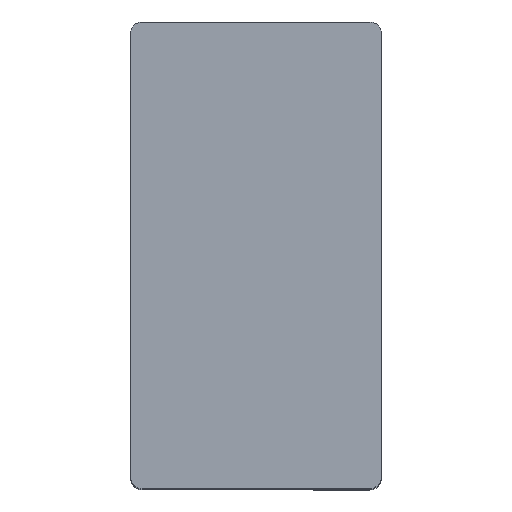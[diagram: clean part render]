
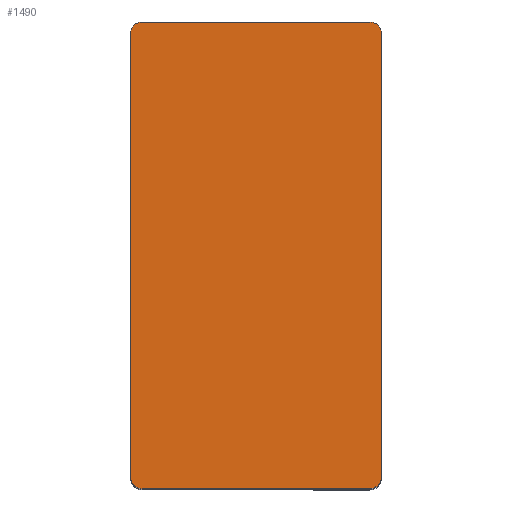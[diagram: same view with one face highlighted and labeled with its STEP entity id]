
A CAD part, top view. The second image highlights one B-rep face of the part: STEP entity #1490.
In plain terms, the highlighted planar face has unit normal (0, 0, 1).
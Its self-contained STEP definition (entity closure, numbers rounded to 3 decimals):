
#12=DIRECTION('',(1.0,0.0,0.0));
#1418=DIRECTION('',(0.0,0.0,1.));
#1419=CARTESIAN_POINT('',(0.0,0.,64.4));
#1420=AXIS2_PLACEMENT_3D('',#1419,#1418,#12);
#1421=PLANE('',#1420);
#1422=VECTOR('',#12,20.0);
#1423=CARTESIAN_POINT('',(1.0,41.0,64.4));
#1424=LINE('',#1423,#1422);
#1425=CARTESIAN_POINT('',(21.0,41.0,64.4));
#1426=VERTEX_POINT('',#1425);
#1427=VERTEX_POINT('',#1423);
#1428=EDGE_CURVE('',#1427,#1426,#1424,.T.);
#1429=ORIENTED_EDGE('',*,*,#1428,.F.);
#1430=CARTESIAN_POINT('',(22.,40.0,64.4));
#1431=CARTESIAN_POINT('',(22.,40.191,64.4));
#1432=CARTESIAN_POINT('',(21.854,40.561,64.4));
#1433=CARTESIAN_POINT('',(21.561,40.854,64.4));
#1434=CARTESIAN_POINT('',(21.191,41.0,64.4));
#1435=(BOUNDED_CURVE()B_SPLINE_CURVE(2,(#1425,#1434,#1433,#1432,#1431,#1430),.UNSPECIFIED.,.U.,.U.)B_SPLINE_CURVE_WITH_KNOTS((3,1,1,1,3),(0.0,0.25,0.5,0.75,1.0),.UNSPECIFIED.)CURVE()GEOMETRIC_REPRESENTATION_ITEM()RATIONAL_B_SPLINE_CURVE((1.0,0.927,0.854,0.854,0.927,1.0))REPRESENTATION_ITEM(''));
#1436=VERTEX_POINT('',#1430);
#1437=EDGE_CURVE('',#1426,#1436,#1435,.T.);
#1438=ORIENTED_EDGE('',*,*,#1437,.F.);
#1439=DIRECTION('',(0.,-1.0,0.0));
#1440=VECTOR('',#1439,39.);
#1441=LINE('',#1430,#1440);
#1442=CARTESIAN_POINT('',(22.0,1.,64.4));
#1443=VERTEX_POINT('',#1442);
#1444=EDGE_CURVE('',#1436,#1443,#1441,.T.);
#1445=ORIENTED_EDGE('',*,*,#1444,.F.);
#1446=CARTESIAN_POINT('',(21.,0.,64.4));
#1447=CARTESIAN_POINT('',(21.191,0.,64.4));
#1448=CARTESIAN_POINT('',(21.561,0.146,64.4));
#1449=CARTESIAN_POINT('',(21.854,0.439,64.4));
#1450=CARTESIAN_POINT('',(22.,0.809,64.4));
#1451=(BOUNDED_CURVE()B_SPLINE_CURVE(2,(#1442,#1450,#1449,#1448,#1447,#1446),.UNSPECIFIED.,.U.,.U.)B_SPLINE_CURVE_WITH_KNOTS((3,1,1,1,3),(0.0,0.25,0.5,0.75,1.0),.UNSPECIFIED.)CURVE()GEOMETRIC_REPRESENTATION_ITEM()RATIONAL_B_SPLINE_CURVE((1.0,0.927,0.854,0.854,0.927,1.0))REPRESENTATION_ITEM(''));
#1452=CARTESIAN_POINT('',(21.0,0.,64.4));
#1453=VERTEX_POINT('',#1452);
#1454=EDGE_CURVE('',#1443,#1453,#1451,.T.);
#1455=ORIENTED_EDGE('',*,*,#1454,.F.);
#1456=DIRECTION('',(-1.0,0.,0.0));
#1457=VECTOR('',#1456,20.);
#1458=LINE('',#1452,#1457);
#1459=CARTESIAN_POINT('',(1.,0.,64.4));
#1460=VERTEX_POINT('',#1459);
#1461=EDGE_CURVE('',#1453,#1460,#1458,.T.);
#1462=ORIENTED_EDGE('',*,*,#1461,.F.);
#1463=CARTESIAN_POINT('',(0.,1.0,64.4));
#1464=CARTESIAN_POINT('',(0.,0.809,64.4));
#1465=CARTESIAN_POINT('',(0.146,0.439,64.4));
#1466=CARTESIAN_POINT('',(0.439,0.146,64.4));
#1467=CARTESIAN_POINT('',(0.809,0.,64.4));
#1468=(BOUNDED_CURVE()B_SPLINE_CURVE(2,(#1459,#1467,#1466,#1465,#1464,#1463),.UNSPECIFIED.,.U.,.U.)B_SPLINE_CURVE_WITH_KNOTS((3,1,1,1,3),(0.0,0.25,0.5,0.75,1.0),.UNSPECIFIED.)CURVE()GEOMETRIC_REPRESENTATION_ITEM()RATIONAL_B_SPLINE_CURVE((1.0,0.927,0.854,0.854,0.927,1.0))REPRESENTATION_ITEM(''));
#1469=CARTESIAN_POINT('',(0.,1.0,64.4));
#1470=VERTEX_POINT('',#1469);
#1471=EDGE_CURVE('',#1460,#1470,#1468,.T.);
#1472=ORIENTED_EDGE('',*,*,#1471,.F.);
#1473=DIRECTION('',(0.,1.0,0.0));
#1474=VECTOR('',#1473,39.0);
#1475=LINE('',#1469,#1474);
#1476=CARTESIAN_POINT('',(0.,40.0,64.4));
#1477=VERTEX_POINT('',#1476);
#1478=EDGE_CURVE('',#1470,#1477,#1475,.T.);
#1479=ORIENTED_EDGE('',*,*,#1478,.F.);
#1480=CARTESIAN_POINT('',(1.,41.0,64.4));
#1481=CARTESIAN_POINT('',(0.809,41.0,64.4));
#1482=CARTESIAN_POINT('',(0.439,40.854,64.4));
#1483=CARTESIAN_POINT('',(0.146,40.561,64.4));
#1484=CARTESIAN_POINT('',(0.0,40.191,64.4));
#1485=(BOUNDED_CURVE()B_SPLINE_CURVE(2,(#1476,#1484,#1483,#1482,#1481,#1480),.UNSPECIFIED.,.U.,.U.)B_SPLINE_CURVE_WITH_KNOTS((3,1,1,1,3),(0.0,0.25,0.5,0.75,1.0),.UNSPECIFIED.)CURVE()GEOMETRIC_REPRESENTATION_ITEM()RATIONAL_B_SPLINE_CURVE((1.0,0.927,0.854,0.854,0.927,1.0))REPRESENTATION_ITEM(''));
#1486=EDGE_CURVE('',#1477,#1427,#1485,.T.);
#1487=ORIENTED_EDGE('',*,*,#1486,.F.);
#1488=EDGE_LOOP('',(#1487,#1479,#1472,#1462,#1455,#1445,#1438,#1429));
#1489=FACE_BOUND('',#1488,.T.);
#1490=ADVANCED_FACE('',(#1489),#1421,.T.);
